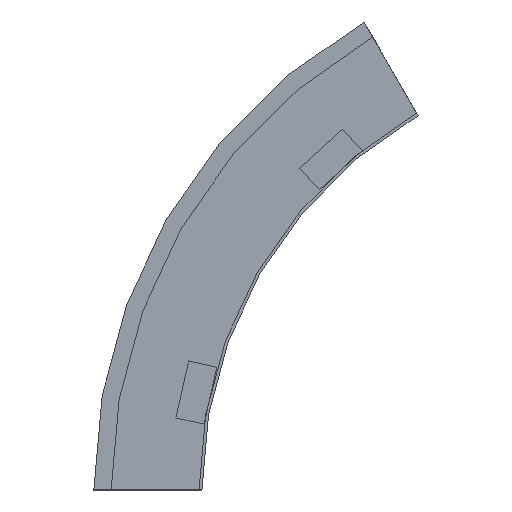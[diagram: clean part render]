
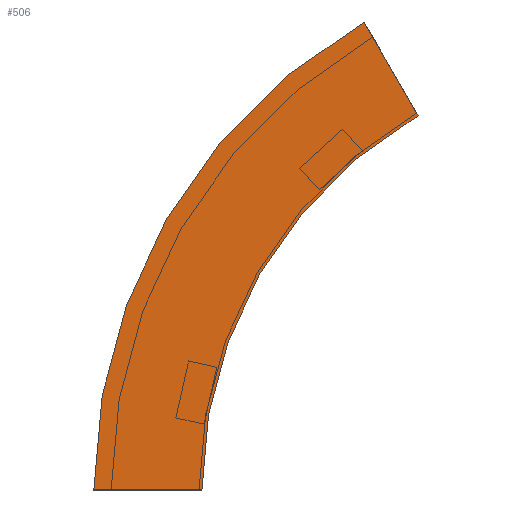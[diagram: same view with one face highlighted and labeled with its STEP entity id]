
A CAD part, left-side view. The second image highlights one B-rep face of the part: STEP entity #506.
In plain terms, the highlighted planar face has unit normal (-1, 0, 0) as drawn and (1, 0, 0) by its records, which use the part's own axes.
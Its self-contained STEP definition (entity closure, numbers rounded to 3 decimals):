
#1 = DIRECTION ( 'NONE',  ( 0., 1., 0. ) ) ;
#7 = CARTESIAN_POINT ( 'NONE',  ( 0., 75., 0. ) ) ;
#10 = AXIS2_PLACEMENT_3D ( 'NONE', #372, #422, #365 ) ;
#12 = EDGE_CURVE ( 'NONE', #390, #470, #177, .T. ) ;
#13 = CARTESIAN_POINT ( 'NONE',  ( 0., -112.5, 324.76 ) ) ;
#17 = VERTEX_POINT ( 'NONE', #556 ) ;
#25 = CARTESIAN_POINT ( 'NONE',  ( 0., 0., 0. ) ) ;
#29 = EDGE_CURVE ( 'NONE', #470, #500, #179, .T. ) ;
#92 = ORIENTED_EDGE ( 'NONE', *, *, #516, .F. ) ;
#95 = CARTESIAN_POINT ( 'NONE',  ( 0., -300., 0. ) ) ;
#107 = LINE ( 'NONE', #419, #524 ) ;
#123 = DIRECTION ( 'NONE',  ( 0., 1., 0. ) ) ;
#137 = CARTESIAN_POINT ( 'NONE',  ( 0., 0., 0. ) ) ;
#144 = DIRECTION ( 'NONE',  ( 1., 0., 0. ) ) ;
#150 = AXIS2_PLACEMENT_3D ( 'NONE', #95, #144, #1 ) ;
#177 = LINE ( 'NONE', #25, #397 ) ;
#179 = CIRCLE ( 'NONE', #150, 375. ) ;
#186 = ORIENTED_EDGE ( 'NONE', *, *, #29, .T. ) ;
#202 = ORIENTED_EDGE ( 'NONE', *, *, #12, .T. ) ;
#204 = FACE_OUTER_BOUND ( 'NONE', #377, .T. ) ;
#255 = CIRCLE ( 'NONE', #554, 300. ) ;
#259 = EDGE_CURVE ( 'NONE', #17, #500, #107, .T. ) ;
#284 = CARTESIAN_POINT ( 'NONE',  ( 0., -300., 0. ) ) ;
#365 = DIRECTION ( 'NONE',  ( 0., 0., -1. ) ) ;
#367 = ORIENTED_EDGE ( 'NONE', *, *, #259, .F. ) ;
#370 = DIRECTION ( 'NONE',  ( 0., 1., 0. ) ) ;
#372 = CARTESIAN_POINT ( 'NONE',  ( 0., 0., 0. ) ) ;
#377 = EDGE_LOOP ( 'NONE', ( #186, #367, #92, #202 ) ) ;
#390 = VERTEX_POINT ( 'NONE', #137 ) ;
#397 = VECTOR ( 'NONE', #123, 1000. ) ;
#414 = PLANE ( 'NONE',  #10 ) ;
#419 = CARTESIAN_POINT ( 'NONE',  ( 0., -150., 259.808 ) ) ;
#422 = DIRECTION ( 'NONE',  ( 1., 0., 0. ) ) ;
#449 = DIRECTION ( 'NONE',  ( 1., 0., 0. ) ) ;
#458 = DIRECTION ( 'NONE',  ( 0., 0.5, 0.866 ) ) ;
#470 = VERTEX_POINT ( 'NONE', #7 ) ;
#500 = VERTEX_POINT ( 'NONE', #13 ) ;
#506 = ADVANCED_FACE ( 'NONE', ( #204 ), #414, .T. ) ;
#516 = EDGE_CURVE ( 'NONE', #390, #17, #255, .T. ) ;
#524 = VECTOR ( 'NONE', #458, 1000. ) ;
#554 = AXIS2_PLACEMENT_3D ( 'NONE', #284, #449, #370 ) ;
#556 = CARTESIAN_POINT ( 'NONE',  ( 0., -150., 259.808 ) ) ;
